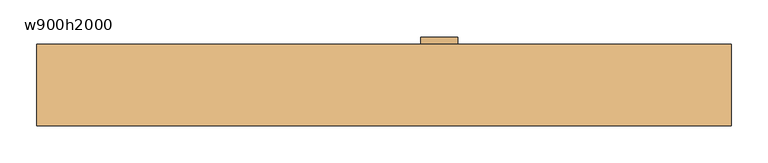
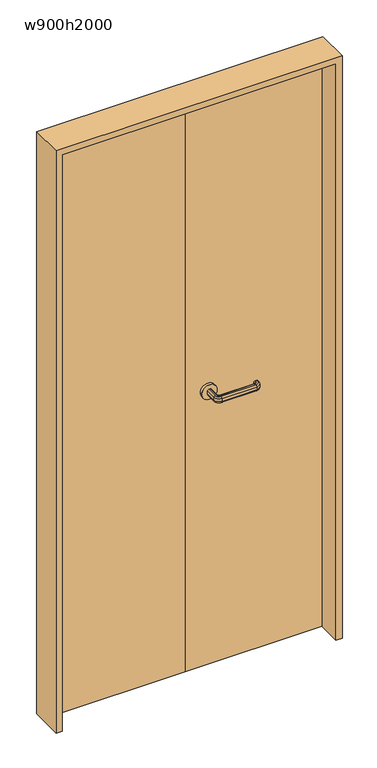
"""IFC4 building model written with IfcOpenShell, lengths in millimetres: door geometry, 両開き : w900h2000."""

from ifc_helpers import new_model, si_unit, point, frame, frame_2d, origin, origin_with_axes, place, context, project, spatial, polyline, circle_curve, ellipse_curve, trimmed, segment, composite_curve, outline, extrude, source, transform, mapped, element, save
from ifc_brep_helpers import plane_surface, cylinder_surface, revolved_surface, advanced_brep


def w900h2000_02bc9eed(model_context):
    return source(origin(), model_context, "Body", "SolidModel", [
        advanced_brep(
        [(77.0, 15.0, 940.0), (73.0, 15.0, 940.0), (68.0, 15.0, 945.0), (68.0, 15.0, 955.0), (73.0, 15.0, 960.0), (77.0, 15.0, 960.0), (82.0, 15.0, 955.0), (82.0, 15.0, 945.0), (77.0, -20.0, 940.0), (85.0, -28.0, 940.0), (200.0, -28.0, 940.0), (208.0, -20.0, 940.0), (208.0, -15.0, 940.0), (212.0, -15.0, 940.0), (212.0, -20.0, 940.0), (200.0, -32.0, 940.0), (85.0, -32.0, 940.0), (73.0, -20.0, 940.0), (68.0, -20.0, 945.0), (68.0, -20.0, 955.0), (73.0, -20.0, 960.0), (85.0, -32.0, 960.0), (200.0, -32.0, 960.0), (212.0, -20.0, 960.0), (212.0, -15.0, 960.0), (208.0, -15.0, 960.0), (208.0, -20.0, 960.0), (200.0, -28.0, 960.0), (85.0, -28.0, 960.0), (77.0, -20.0, 960.0), (82.0, -20.0, 955.0), (82.0, -20.0, 945.0), (85.0, -37.0, 945.0), (85.0, -37.0, 955.0), (85.0, -23.0, 955.0), (85.0, -23.0, 945.0), (200.0, -37.0, 945.0), (200.0, -37.0, 955.0), (200.0, -23.0, 955.0), (200.0, -23.0, 945.0), (217.0, -20.0, 945.0), (217.0, -20.0, 955.0), (203.0, -20.0, 955.0), (203.0, -20.0, 945.0), (203.0, -15.0, 945.0), (203.0, -15.0, 955.0), (217.0, -15.0, 955.0), (217.0, -15.0, 945.0)],
        [
            (0, 1),
            (1, 2, circle_curve(frame((73.0, 15.0, 945.0), z_axis=(0.0, 1.0, 0.0), x_axis=(1.0, 0.0, 0.0)), 5.0)),
            (2, 3),
            (3, 4, circle_curve(frame((73.0, 15.0, 955.0), z_axis=(0.0, 1.0, 0.0), x_axis=(1.0, 0.0, 0.0)), 5.0)),
            (4, 5),
            (5, 6, circle_curve(frame((77.0, 15.0, 955.0), z_axis=(0.0, 1.0, 0.0), x_axis=(1.0, 0.0, 0.0)), 5.0)),
            (6, 7),
            (7, 0, circle_curve(frame((77.0, 15.0, 945.0), z_axis=(0.0, 1.0, 0.0), x_axis=(1.0, 0.0, 0.0)), 5.0)),
            (0, 8),
            (8, 9, circle_curve(frame((85.0, -20.0, 940.0), z_axis=(0.0, 0.0, 1.0), x_axis=(-1.0, 0.0, 0.0)), 8.0)),
            (9, 10),
            (10, 11, circle_curve(frame((200.0, -20.0, 940.0), z_axis=(0.0, 0.0, 1.0), x_axis=(0.0, -1.0, 0.0)), 8.0)),
            (11, 12),
            (12, 13),
            (13, 14),
            (14, 15, circle_curve(frame((200.0, -20.0, 940.0), z_axis=(0.0, 0.0, -1.0), x_axis=(0.0, -1.0, 0.0)), 12.0)),
            (15, 16),
            (16, 17, circle_curve(frame((85.0, -20.0, 940.0), z_axis=(0.0, 0.0, -1.0), x_axis=(-1.0, 0.0, 0.0)), 12.0)),
            (17, 1),
            (17, 18, circle_curve(frame((73.0, -20.0, 945.0), z_axis=(0.0, 1.0, 0.0), x_axis=(1.0, 0.0, 0.0)), 5.0)),
            (18, 2),
            (18, 19),
            (19, 3),
            (19, 20, circle_curve(frame((73.0, -20.0, 955.0), z_axis=(0.0, 1.0, 0.0), x_axis=(1.0, 0.0, 0.0)), 5.0)),
            (20, 4),
            (20, 21, circle_curve(frame((85.0, -20.0, 960.0), z_axis=(0.0, 0.0, 1.0), x_axis=(-1.0, 0.0, 0.0)), 12.0)),
            (21, 22),
            (22, 23, circle_curve(frame((200.0, -20.0, 960.0), z_axis=(0.0, 0.0, 1.0), x_axis=(0.0, -1.0, 0.0)), 12.0)),
            (23, 24),
            (24, 25),
            (25, 26),
            (26, 27, circle_curve(frame((200.0, -20.0, 960.0), z_axis=(0.0, 0.0, -1.0), x_axis=(0.0, -1.0, 0.0)), 8.0)),
            (27, 28),
            (28, 29, circle_curve(frame((85.0, -20.0, 960.0), z_axis=(0.0, 0.0, -1.0), x_axis=(-1.0, 0.0, 0.0)), 8.0)),
            (29, 5),
            (29, 30, circle_curve(frame((77.0, -20.0, 955.0), z_axis=(0.0, 1.0, 0.0), x_axis=(1.0, 0.0, 0.0)), 5.0)),
            (30, 6),
            (30, 31),
            (31, 7),
            (31, 8, circle_curve(frame((77.0, -20.0, 945.0), z_axis=(0.0, 1.0, 0.0), x_axis=(1.0, 0.0, 0.0)), 5.0)),
            (32, 18, circle_curve(frame((85.0, -20.0, 945.0), z_axis=(0.0, 0.0, -1.0), x_axis=(-1.0, 0.0, 0.0)), 17.0)),
            (16, 32, circle_curve(frame((85.0, -32.0, 945.0), z_axis=(-1.0, 0.0, 0.0), x_axis=(0.0, 1.0, 0.0)), 5.0)),
            (33, 19, circle_curve(frame((85.0, -20.0, 955.0), z_axis=(0.0, 0.0, -1.0), x_axis=(-1.0, 0.0, 0.0)), 17.0)),
            (32, 33),
            (33, 21, circle_curve(frame((85.0, -32.0, 955.0), z_axis=(-1.0, 0.0, 0.0), x_axis=(0.0, 1.0, 0.0)), 5.0)),
            (34, 30, circle_curve(frame((85.0, -20.0, 955.0), z_axis=(0.0, 0.0, -1.0), x_axis=(-1.0, 0.0, 0.0)), 3.0)),
            (28, 34, circle_curve(frame((85.0, -28.0, 955.0), z_axis=(-1.0, 0.0, 0.0), x_axis=(0.0, 1.0, 0.0)), 5.0)),
            (35, 31, circle_curve(frame((85.0, -20.0, 945.0), z_axis=(0.0, 0.0, -1.0), x_axis=(-1.0, 0.0, 0.0)), 3.0)),
            (34, 35),
            (35, 9, circle_curve(frame((85.0, -28.0, 945.0), z_axis=(-1.0, 0.0, 0.0), x_axis=(0.0, 1.0, 0.0)), 5.0)),
            (15, 36, circle_curve(frame((200.0, -32.0, 945.0), z_axis=(-1.0, 0.0, 0.0), x_axis=(0.0, 1.0, 0.0)), 5.0)),
            (36, 32),
            (36, 37),
            (37, 33),
            (37, 22, circle_curve(frame((200.0, -32.0, 955.0), z_axis=(-1.0, 0.0, 0.0), x_axis=(0.0, 1.0, 0.0)), 5.0)),
            (27, 38, circle_curve(frame((200.0, -28.0, 955.0), z_axis=(-1.0, 0.0, 0.0), x_axis=(0.0, 1.0, 0.0)), 5.0)),
            (38, 34),
            (38, 39),
            (39, 35),
            (39, 10, circle_curve(frame((200.0, -28.0, 945.0), z_axis=(-1.0, 0.0, 0.0), x_axis=(0.0, 1.0, 0.0)), 5.0)),
            (40, 36, circle_curve(frame((200.0, -20.0, 945.0), z_axis=(0.0, 0.0, -1.0), x_axis=(0.0, -1.0, 0.0)), 17.0)),
            (14, 40, circle_curve(frame((212.0, -20.0, 945.0), z_axis=(0.0, -1.0, 0.0), x_axis=(-1.0, 0.0, 0.0)), 5.0)),
            (41, 37, circle_curve(frame((200.0, -20.0, 955.0), z_axis=(0.0, 0.0, -1.0), x_axis=(0.0, -1.0, 0.0)), 17.0)),
            (40, 41),
            (41, 23, circle_curve(frame((212.0, -20.0, 955.0), z_axis=(0.0, -1.0, 0.0), x_axis=(-1.0, 0.0, 0.0)), 5.0)),
            (42, 38, circle_curve(frame((200.0, -20.0, 955.0), z_axis=(0.0, 0.0, -1.0), x_axis=(0.0, -1.0, 0.0)), 3.0)),
            (26, 42, circle_curve(frame((208.0, -20.0, 955.0), z_axis=(0.0, -1.0, 0.0), x_axis=(-1.0, 0.0, 0.0)), 5.0)),
            (43, 39, circle_curve(frame((200.0, -20.0, 945.0), z_axis=(0.0, 0.0, -1.0), x_axis=(0.0, -1.0, 0.0)), 3.0)),
            (42, 43),
            (43, 11, circle_curve(frame((208.0, -20.0, 945.0), z_axis=(0.0, -1.0, 0.0), x_axis=(-1.0, 0.0, 0.0)), 5.0)),
            (12, 44, circle_curve(frame((208.0, -15.0, 945.0), z_axis=(0.0, 1.0, 0.0), x_axis=(-1.0, 0.0, 0.0)), 5.0)),
            (44, 45),
            (45, 25, circle_curve(frame((208.0, -15.0, 955.0), z_axis=(0.0, 1.0, 0.0), x_axis=(-1.0, 0.0, 0.0)), 5.0)),
            (24, 46, circle_curve(frame((212.0, -15.0, 955.0), z_axis=(0.0, 1.0, 0.0), x_axis=(-1.0, 0.0, 0.0)), 5.0)),
            (46, 47),
            (47, 13, circle_curve(frame((212.0, -15.0, 945.0), z_axis=(0.0, 1.0, 0.0), x_axis=(-1.0, 0.0, 0.0)), 5.0)),
            (47, 40),
            (46, 41),
            (45, 42),
            (44, 43),
        ],
        [
            plane_surface(frame((64.801961, 15.0, 950.0), z_axis=(0.0, 1.0, 0.0), x_axis=(0.0, 0.0, -1.0))),
            plane_surface(frame((77.0, 15.0, 940.0), z_axis=(0.0, 0.0, -1.0), x_axis=(0.0, -1.0, 0.0))),
            cylinder_surface(frame((73.0, 15.0, 945.0), z_axis=(0.0, 1.0, 0.0), x_axis=(1.0, 0.0, 0.0)), 5.0),
            plane_surface(frame((68.0, 15.0, 945.0), z_axis=(-1.0, 0.0, 0.0), x_axis=(0.0, -1.0, 0.0))),
            cylinder_surface(frame((73.0, 15.0, 955.0), z_axis=(0.0, 1.0, 0.0), x_axis=(1.0, 0.0, 0.0)), 5.0),
            plane_surface(frame((73.0, 15.0, 960.0), z_axis=(0.0, 0.0, 1.0), x_axis=(0.0, -1.0, 0.0))),
            cylinder_surface(frame((77.0, 15.0, 955.0), z_axis=(0.0, 1.0, 0.0), x_axis=(1.0, 0.0, 0.0)), 5.0),
            plane_surface(frame((82.0, 15.0, 955.0), z_axis=(1.0, 0.0, 0.0), x_axis=(0.0, -1.0, 0.0))),
            cylinder_surface(frame((77.0, 15.0, 945.0), z_axis=(0.0, 1.0, 0.0), x_axis=(1.0, 0.0, 0.0)), 5.0),
            revolved_surface(trimmed(ellipse_curve(frame((73.0, -20.0, 945.0), z_axis=(0.0, 1.0, 0.0), x_axis=(1.0, 0.0, 0.0)), 5.0, 5.0), [point((73.0, -20.0, 940.0))], [point((68.0, -20.0, 945.0))], True, "CARTESIAN"), (85.0, -20.0, 950.0), (0.0, 0.0, 1.0)),
            cylinder_surface(frame((85.0, -20.0, 950.0), z_axis=(0.0, 0.0, 1.0), x_axis=(-1.0, 0.0, 0.0)), 17.0),
            revolved_surface(trimmed(ellipse_curve(frame((73.0, -20.0, 955.0), z_axis=(0.0, 1.0, 0.0), x_axis=(1.0, 0.0, 0.0)), 5.0, 5.0), [point((68.0, -20.0, 955.0))], [point((73.0, -20.0, 960.0))], True, "CARTESIAN"), (85.0, -20.0, 950.0), (0.0, 0.0, 1.0)),
            revolved_surface(trimmed(ellipse_curve(frame((77.0, -20.0, 955.0), z_axis=(0.0, 1.0, 0.0), x_axis=(1.0, 0.0, 0.0)), 5.0, 5.0), [point((77.0, -20.0, 960.0))], [point((82.0, -20.0, 955.0))], True, "CARTESIAN"), (85.0, -20.0, 950.0), (0.0, 0.0, 1.0)),
            revolved_surface(polyline([(82.0, -20.0, 955.0), (82.0, -20.0, 945.0)]), (85.0, -20.0, 950.0), (0.0, 0.0, 1.0)),
            revolved_surface(trimmed(ellipse_curve(frame((77.0, -20.0, 945.0), z_axis=(0.0, 1.0, 0.0), x_axis=(1.0, 0.0, 0.0)), 5.0, 5.0), [point((82.0, -20.0, 945.0))], [point((77.0, -20.0, 940.0))], True, "CARTESIAN"), (85.0, -20.0, 950.0), (0.0, 0.0, 1.0)),
            cylinder_surface(frame((85.0, -32.0, 945.0), z_axis=(-1.0, 0.0, 0.0), x_axis=(0.0, 1.0, 0.0)), 5.0),
            plane_surface(frame((85.0, -37.0, 945.0), z_axis=(0.0, -1.0, 0.0), x_axis=(1.0, 0.0, 0.0))),
            cylinder_surface(frame((85.0, -32.0, 955.0), z_axis=(-1.0, 0.0, 0.0), x_axis=(0.0, 1.0, 0.0)), 5.0),
            cylinder_surface(frame((85.0, -28.0, 955.0), z_axis=(-1.0, 0.0, 0.0), x_axis=(0.0, 1.0, 0.0)), 5.0),
            plane_surface(frame((85.0, -23.0, 955.0), z_axis=(0.0, 1.0, 0.0), x_axis=(1.0, 0.0, 0.0))),
            cylinder_surface(frame((85.0, -28.0, 945.0), z_axis=(-1.0, 0.0, 0.0), x_axis=(0.0, 1.0, 0.0)), 5.0),
            revolved_surface(trimmed(ellipse_curve(frame((200.0, -32.0, 945.0), z_axis=(-1.0, 0.0, 0.0), x_axis=(0.0, 1.0, 0.0)), 5.0, 5.0), [point((200.0, -32.0, 940.0))], [point((200.0, -37.0, 945.0))], True, "CARTESIAN"), (200.0, -20.0, 950.0), (0.0, 0.0, 1.0)),
            cylinder_surface(frame((200.0, -20.0, 950.0), z_axis=(0.0, 0.0, 1.0), x_axis=(0.0, -1.0, 0.0)), 17.0),
            revolved_surface(trimmed(ellipse_curve(frame((200.0, -32.0, 955.0), z_axis=(-1.0, 0.0, 0.0), x_axis=(0.0, 1.0, 0.0)), 5.0, 5.0), [point((200.0, -37.0, 955.0))], [point((200.0, -32.0, 960.0))], True, "CARTESIAN"), (200.0, -20.0, 950.0), (0.0, 0.0, 1.0)),
            revolved_surface(trimmed(ellipse_curve(frame((200.0, -28.0, 955.0), z_axis=(-1.0, 0.0, 0.0), x_axis=(0.0, 1.0, 0.0)), 5.0, 5.0), [point((200.0, -28.0, 960.0))], [point((200.0, -23.0, 955.0))], True, "CARTESIAN"), (200.0, -20.0, 950.0), (0.0, 0.0, 1.0)),
            revolved_surface(polyline([(200.0, -23.0, 955.0), (200.0, -23.0, 945.0)]), (200.0, -20.0, 950.0), (0.0, 0.0, 1.0)),
            revolved_surface(trimmed(ellipse_curve(frame((200.0, -28.0, 945.0), z_axis=(-1.0, 0.0, 0.0), x_axis=(0.0, 1.0, 0.0)), 5.0, 5.0), [point((200.0, -23.0, 945.0))], [point((200.0, -28.0, 940.0))], True, "CARTESIAN"), (200.0, -20.0, 950.0), (0.0, 0.0, 1.0)),
            plane_surface(frame((199.801961, -15.0, 950.0), z_axis=(0.0, 1.0, 0.0), x_axis=(0.0, 0.0, 1.0))),
            cylinder_surface(frame((212.0, -20.0, 945.0), z_axis=(0.0, -1.0, 0.0), x_axis=(-1.0, 0.0, 0.0)), 5.0),
            plane_surface(frame((217.0, -20.0, 945.0), z_axis=(1.0, 0.0, 0.0), x_axis=(0.0, 1.0, 0.0))),
            cylinder_surface(frame((212.0, -20.0, 955.0), z_axis=(0.0, -1.0, 0.0), x_axis=(-1.0, 0.0, 0.0)), 5.0),
            cylinder_surface(frame((208.0, -20.0, 955.0), z_axis=(0.0, -1.0, 0.0), x_axis=(-1.0, 0.0, 0.0)), 5.0),
            plane_surface(frame((203.0, -20.0, 955.0), z_axis=(-1.0, 0.0, 0.0), x_axis=(0.0, 1.0, 0.0))),
            cylinder_surface(frame((208.0, -20.0, 945.0), z_axis=(0.0, -1.0, 0.0), x_axis=(-1.0, 0.0, 0.0)), 5.0),
        ],
        [
            (0, [[1, 2, 3, 4, 5, 6, 7, 8]]),
            (1, [[-1, 9, 10, 11, 12, 13, 14, 15, 16, 17, 18, 19]]),
            (2, [[-2, -19, 20, 21]]),
            (3, [[-3, -21, 22, 23]]),
            (4, [[-4, -23, 24, 25]]),
            (5, [[-5, -25, 26, 27, 28, 29, 30, 31, 32, 33, 34, 35]]),
            (6, [[-6, -35, 36, 37]]),
            (7, [[-7, -37, 38, 39]]),
            (8, [[-8, -39, 40, -9]]),
            (9, [[41, -20, -18, 42]]),
            (10, [[43, -22, -41, 44]]),
            (11, [[-26, -24, -43, 45]]),
            (12, [[46, -36, -34, 47]]),
            (13, [[48, -38, -46, 49]]),
            (14, [[-10, -40, -48, 50]]),
            (15, [[-42, -17, 51, 52]]),
            (16, [[-44, -52, 53, 54]]),
            (17, [[-45, -54, 55, -27]]),
            (18, [[-47, -33, 56, 57]]),
            (19, [[-49, -57, 58, 59]]),
            (20, [[-50, -59, 60, -11]]),
            (21, [[61, -51, -16, 62]]),
            (22, [[63, -53, -61, 64]]),
            (23, [[-28, -55, -63, 65]]),
            (24, [[66, -56, -32, 67]]),
            (25, [[68, -58, -66, 69]]),
            (26, [[-12, -60, -68, 70]]),
            (27, [[71, 72, 73, -30, 74, 75, 76, -14]]),
            (28, [[-62, -15, -76, 77]]),
            (29, [[-64, -77, -75, 78]]),
            (30, [[-65, -78, -74, -29]]),
            (31, [[-67, -31, -73, 79]]),
            (32, [[-69, -79, -72, 80]]),
            (33, [[-70, -80, -71, -13]]),
        ],
    ),
        extrude(outline(composite_curve([segment(trimmed(circle_curve(frame_2d((950.0, 75.0)), 25.0), [point((950.0, 50.0))], [point((950.0, 100.0))], False, "CARTESIAN"), True, "CONTINUOUS"), segment(trimmed(circle_curve(frame_2d((950.0, 75.0)), 25.0), [point((950.0, 100.0))], [point((950.0, 50.0))], False, "CARTESIAN"), True, "CONTINUOUS")], self_intersect=False)), frame((0.0, 55.0, 0.0), z_axis=(0.0, 1.0, 0.0), x_axis=(0.0, 0.0, 1.0)), (0.0, 0.0, 1.0), 10.0),
        extrude(outline(composite_curve([segment(trimmed(circle_curve(frame_2d((950.0, 75.0)), 25.0), [point((950.0, 50.0))], [point((950.0, 100.0))], False, "CARTESIAN"), True, "CONTINUOUS"), segment(trimmed(circle_curve(frame_2d((950.0, 75.0)), 25.0), [point((950.0, 100.0))], [point((950.0, 50.0))], False, "CARTESIAN"), True, "CONTINUOUS")], self_intersect=False)), frame((0.0, 15.0, 0.0), z_axis=(0.0, 1.0, 0.0), x_axis=(0.0, 0.0, 1.0)), (0.0, 0.0, 1.0), 10.0),
        extrude(outline(polyline([(0.0, 25.0), (-450.0, 25.0), (-450.0, 55.0), (0.0, 55.0), (0.0, 25.0)])), origin_with_axes(), (0.0, 0.0, 1.0), 2000.0),
        extrude(outline(polyline([(2020.0, -470.0), (0.0, -470.0), (0.0, -450.0), (2000.0, -450.0), (2000.0, 450.0), (0.0, 450.0), (0.0, 470.0), (2020.0, 470.0), (2020.0, -470.0)])), frame((0.0, -55.0, 0.0), z_axis=(0.0, 1.0, 0.0), x_axis=(0.0, 0.0, 1.0)), (0.0, 0.0, 1.0), 110.0),
        extrude(outline(polyline([(450.0, 25.0), (0.0, 25.0), (0.0, 55.0), (450.0, 55.0), (450.0, 25.0)])), origin_with_axes(), (0.0, 0.0, 1.0), 2000.0),
    ])


if __name__ == "__main__":
    model = new_model("IFC4")
    model_context = context("Model", 3, world=origin())
    ifc_project = project(units=[si_unit("LENGTHUNIT", "METRE", prefix="MILLI")], contexts=[model_context])
    site = spatial("IfcSite", under=ifc_project)
    building = spatial("IfcBuilding", under=site)
    placement = place(None, origin())
    w900h2000_shape = w900h2000_02bc9eed(model_context)
    element("IfcDoor", 1, ObjectType="両開き : w900h2000", at=placement, inside=building, context=model_context, shape_type="MappedRepresentation", body=[
        mapped(w900h2000_shape, transform((0.0, 0.0, 0.0), x_axis=(1.0, 0.0, 0.0), y_axis=(0.0, 1.0, 0.0), z_axis=(0.0, 0.0, 1.0))),
    ])
    save(model, "model.ifc")
